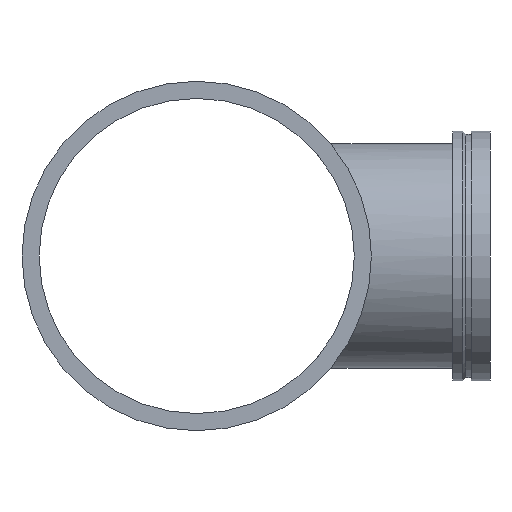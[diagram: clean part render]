
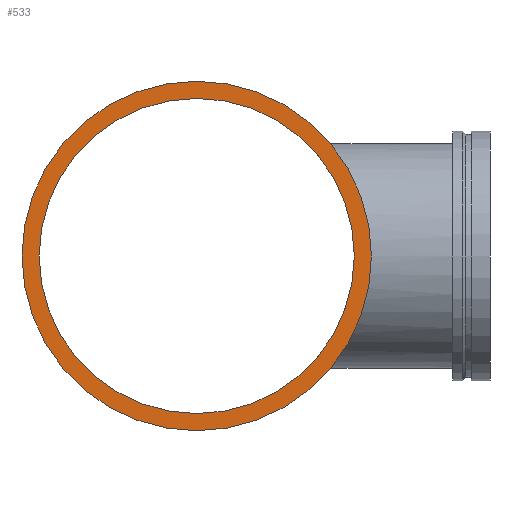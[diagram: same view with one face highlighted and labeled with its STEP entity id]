
A CAD part, left-side view. The second image highlights one B-rep face of the part: STEP entity #533.
In plain terms, the highlighted planar face has unit normal (-1, 0, 0).
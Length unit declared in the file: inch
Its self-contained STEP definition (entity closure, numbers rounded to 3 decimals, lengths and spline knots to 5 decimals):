
#58=FACE_BOUND('',#128,.T.);
#67=PLANE('',#626);
#92=FACE_OUTER_BOUND('',#127,.T.);
#127=EDGE_LOOP('',(#465,#466));
#128=EDGE_LOOP('',(#467,#468));
#151=CIRCLE('',#587,14.);
#152=CIRCLE('',#588,14.);
#175=CIRCLE('',#624,12.625);
#176=CIRCLE('',#625,12.625);
#239=VERTEX_POINT('',#1121);
#240=VERTEX_POINT('',#1123);
#263=VERTEX_POINT('',#1190);
#264=VERTEX_POINT('',#1192);
#299=EDGE_CURVE('',#239,#240,#151,.T.);
#300=EDGE_CURVE('',#240,#239,#152,.T.);
#331=EDGE_CURVE('',#264,#263,#175,.T.);
#332=EDGE_CURVE('',#263,#264,#176,.T.);
#465=ORIENTED_EDGE('',*,*,#300,.F.);
#466=ORIENTED_EDGE('',*,*,#299,.F.);
#467=ORIENTED_EDGE('',*,*,#331,.T.);
#468=ORIENTED_EDGE('',*,*,#332,.T.);
#533=ADVANCED_FACE('',(#92,#58),#67,.T.);
#587=AXIS2_PLACEMENT_3D('',#1124,#716,#717);
#588=AXIS2_PLACEMENT_3D('',#1125,#718,#719);
#624=AXIS2_PLACEMENT_3D('',#1193,#798,#799);
#625=AXIS2_PLACEMENT_3D('',#1194,#800,#801);
#626=AXIS2_PLACEMENT_3D('',#1195,#802,#803);
#716=DIRECTION('center_axis',(1.,0.,0.));
#717=DIRECTION('ref_axis',(0.,0.,1.));
#718=DIRECTION('center_axis',(1.,0.,0.));
#719=DIRECTION('ref_axis',(0.,0.,1.));
#798=DIRECTION('center_axis',(1.,0.,0.));
#799=DIRECTION('ref_axis',(0.,0.,1.));
#800=DIRECTION('center_axis',(1.,0.,0.));
#801=DIRECTION('ref_axis',(0.,0.,1.));
#802=DIRECTION('center_axis',(-1.,0.,0.));
#803=DIRECTION('ref_axis',(0.,0.,-1.));
#1121=CARTESIAN_POINT('',(-25.5,14.,0.));
#1123=CARTESIAN_POINT('',(-25.5,-14.,0.));
#1124=CARTESIAN_POINT('Origin',(-25.5,0.,0.));
#1125=CARTESIAN_POINT('Origin',(-25.5,0.,0.));
#1190=CARTESIAN_POINT('',(-25.5,12.625,0.));
#1192=CARTESIAN_POINT('',(-25.5,-12.625,0.));
#1193=CARTESIAN_POINT('Origin',(-25.5,0.,0.));
#1194=CARTESIAN_POINT('Origin',(-25.5,0.,0.));
#1195=CARTESIAN_POINT('Origin',(-25.5,-14.,0.));
